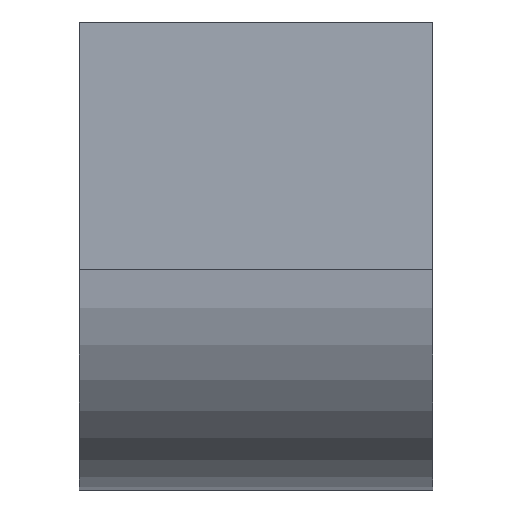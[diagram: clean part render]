
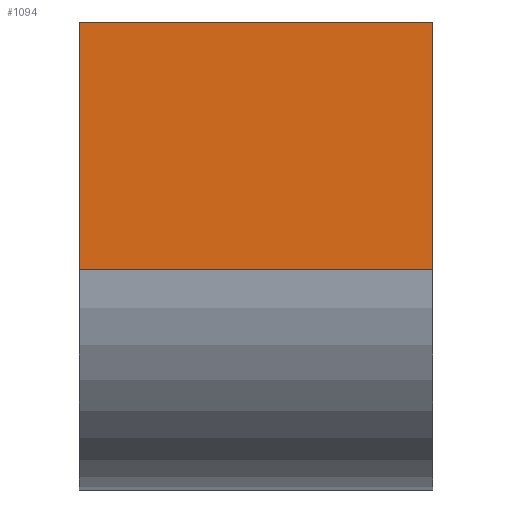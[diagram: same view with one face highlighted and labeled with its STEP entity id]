
A CAD part, front view. The second image highlights one B-rep face of the part: STEP entity #1094.
In plain terms, the highlighted planar face has unit normal (0, -1, 0).
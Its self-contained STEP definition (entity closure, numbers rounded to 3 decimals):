
#75 = EDGE_CURVE ( 'NONE', #1305, #221, #117, .T. ) ;
#102 = ORIENTED_EDGE ( 'NONE', *, *, #75, .T. ) ;
#114 = EDGE_CURVE ( 'NONE', #498, #434, #349, .T. ) ;
#117 = LINE ( 'NONE', #1141, #1294 ) ;
#126 = CARTESIAN_POINT ( 'NONE',  ( 100., -100., -140. ) ) ;
#138 = LINE ( 'NONE', #1313, #1135 ) ;
#218 = DIRECTION ( 'NONE',  ( 0., 0., -1. ) ) ;
#221 = VERTEX_POINT ( 'NONE', #794 ) ;
#224 = DIRECTION ( 'NONE',  ( 0., 1., 0. ) ) ;
#288 = DIRECTION ( 'NONE',  ( -1., 0., 0. ) ) ;
#315 = CARTESIAN_POINT ( 'NONE',  ( 100., -100., 0. ) ) ;
#337 = ORIENTED_EDGE ( 'NONE', *, *, #1151, .F. ) ;
#349 = LINE ( 'NONE', #126, #567 ) ;
#434 = VERTEX_POINT ( 'NONE', #1280 ) ;
#463 = FACE_OUTER_BOUND ( 'NONE', #946, .T. ) ;
#498 = VERTEX_POINT ( 'NONE', #791 ) ;
#567 = VECTOR ( 'NONE', #1651, 1000. ) ;
#661 = DIRECTION ( 'NONE',  ( -1., 0., 0. ) ) ;
#708 = DIRECTION ( 'NONE',  ( 0., 0., 1. ) ) ;
#781 = AXIS2_PLACEMENT_3D ( 'NONE', #1113, #224, #708 ) ;
#791 = CARTESIAN_POINT ( 'NONE',  ( 100., -100., 0. ) ) ;
#794 = CARTESIAN_POINT ( 'NONE',  ( -100., -100., -140. ) ) ;
#926 = ORIENTED_EDGE ( 'NONE', *, *, #1079, .T. ) ;
#946 = EDGE_LOOP ( 'NONE', ( #102, #337, #1052, #926 ) ) ;
#947 = LINE ( 'NONE', #315, #1410 ) ;
#973 = CARTESIAN_POINT ( 'NONE',  ( -100., -100., 0. ) ) ;
#1052 = ORIENTED_EDGE ( 'NONE', *, *, #114, .F. ) ;
#1079 = EDGE_CURVE ( 'NONE', #498, #1305, #947, .T. ) ;
#1094 = ADVANCED_FACE ( 'NONE', ( #463 ), #1485, .F. ) ;
#1113 = CARTESIAN_POINT ( 'NONE',  ( 100., -100., -140. ) ) ;
#1135 = VECTOR ( 'NONE', #288, 1000. ) ;
#1141 = CARTESIAN_POINT ( 'NONE',  ( -100., -100., -140. ) ) ;
#1151 = EDGE_CURVE ( 'NONE', #434, #221, #138, .T. ) ;
#1280 = CARTESIAN_POINT ( 'NONE',  ( 100., -100., -140. ) ) ;
#1294 = VECTOR ( 'NONE', #218, 1000. ) ;
#1305 = VERTEX_POINT ( 'NONE', #973 ) ;
#1313 = CARTESIAN_POINT ( 'NONE',  ( 100., -100., -140. ) ) ;
#1410 = VECTOR ( 'NONE', #661, 1000. ) ;
#1485 = PLANE ( 'NONE',  #781 ) ;
#1651 = DIRECTION ( 'NONE',  ( 0., 0., -1. ) ) ;
